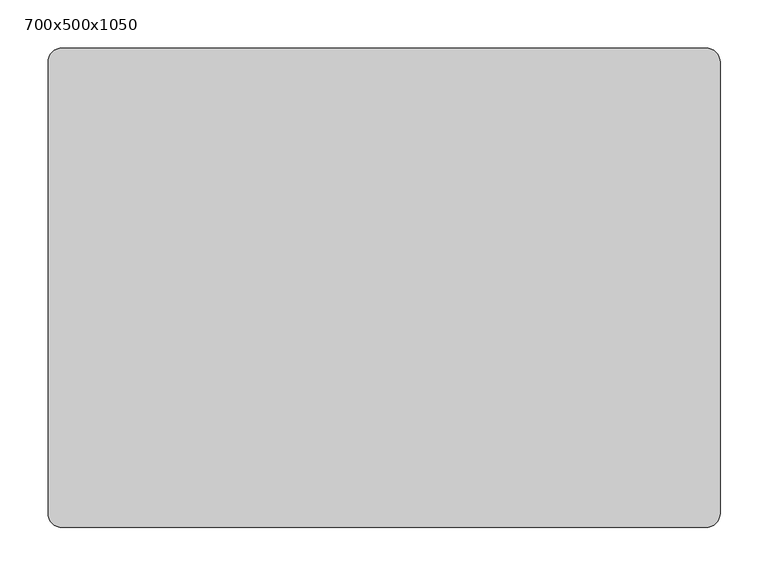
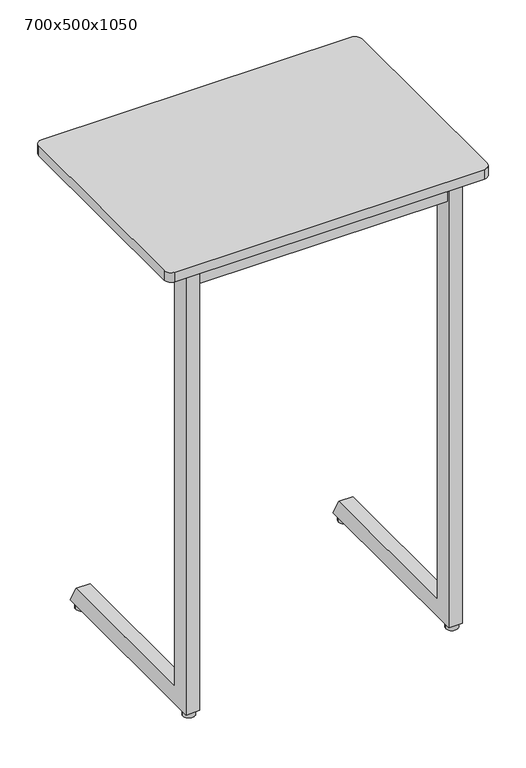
"""IFC4 building model written with IfcOpenShell, lengths in millimetres: furniture geometry, Trivia Light : 700x500x1050."""

from ifc_helpers import new_model, si_unit, point, frame, frame_2d, origin, origin_with_axes, place, context, project, spatial, polyline, circle_curve, trimmed, segment, composite_curve, outline, extrude, source, transform, mapped, element, save


def furniture_700x500x1050_466b920c(model_context):
    return source(origin(), model_context, "Body", "SweptSolid", [
        extrude(outline(polyline([(434.5100173, 1028.0), (419.9996059, 996.4981092), (54.0, 996.4977978), (54.0, 1028.0), (434.5100173, 1028.0)])), frame((-214.7535601, 0.0, 0.0), z_axis=(1.0, 0.0, 0.0), x_axis=(0.0, 1.0, 0.0)), (0.0, 0.0, 1.0), 30.0),
        extrude(outline(polyline([(1023.7997437, -217.7502136), (1000.730957, -217.7502136), (1000.730957, -249.8065042), (1005.0394353, -261.6439509), (1002.2203574, -262.6700113), (997.730957, -250.3354852), (997.730957, -214.7502136), (1023.7997437, -214.7502136), (1023.7997437, -217.7502136)])), frame((0.0, 215.0, 0.0), z_axis=(0.0, 1.0, 0.0), x_axis=(0.0, 0.0, 1.0)), (0.0, 0.0, 1.0), 30.0),
        extrude(outline(polyline([(1023.7997437, 217.7535601), (1023.7997437, 214.7535601), (997.730957, 214.7535601), (997.730957, 250.3388316), (1002.2203574, 262.6733577), (1005.0394353, 261.6472973), (1000.730957, 249.8098507), (1000.730957, 217.7535601), (1023.7997437, 217.7535601)])), frame((0.0, 215.0, 0.0), z_axis=(0.0, 1.0, 0.0), x_axis=(0.0, 0.0, 1.0)), (0.0, 0.0, 1.0), 30.0),
        extrude(outline(composite_curve([segment(trimmed(circle_curve(frame_2d((-285.0, 35.0)), 13.0), [point((-298.0, 35.0))], [point((-272.0, 35.0))], False, "CARTESIAN"), True, "CONTINUOUS"), segment(trimmed(circle_curve(frame_2d((-285.0, 35.0)), 13.0), [point((-272.0, 35.0))], [point((-298.0, 35.0))], False, "CARTESIAN"), True, "CONTINUOUS")], self_intersect=False)), origin_with_axes(), (0.0, 0.0, 1.0), 13.0905762),
        extrude(outline(composite_curve([segment(trimmed(circle_curve(frame_2d((285.0, 35.0)), 13.0), [point((272.0, 35.0))], [point((298.0, 35.0))], False, "CARTESIAN"), True, "CONTINUOUS"), segment(trimmed(circle_curve(frame_2d((285.0, 35.0)), 13.0), [point((298.0, 35.0))], [point((272.0, 35.0))], False, "CARTESIAN"), True, "CONTINUOUS")], self_intersect=False)), origin_with_axes(), (0.0, 0.0, 1.0), 13.0905762),
        extrude(outline(composite_curve([segment(trimmed(circle_curve(frame_2d((285.0, 437.5)), 13.0), [point((272.0, 437.5))], [point((298.0, 437.5))], False, "CARTESIAN"), True, "CONTINUOUS"), segment(trimmed(circle_curve(frame_2d((285.0, 437.5)), 13.0), [point((298.0, 437.5))], [point((272.0, 437.5))], False, "CARTESIAN"), True, "CONTINUOUS")], self_intersect=False)), origin_with_axes(), (0.0, 0.0, 1.0), 13.0905762),
        extrude(outline(composite_curve([segment(trimmed(circle_curve(frame_2d((-285.0, 437.5)), 13.0), [point((-298.0, 437.5))], [point((-272.0, 437.5))], False, "CARTESIAN"), True, "CONTINUOUS"), segment(trimmed(circle_curve(frame_2d((-285.0, 437.5)), 13.0), [point((-272.0, 437.5))], [point((-298.0, 437.5))], False, "CARTESIAN"), True, "CONTINUOUS")], self_intersect=False)), origin_with_axes(), (0.0, 0.0, 1.0), 13.0905762),
        extrude(outline(polyline([(434.5100173, 1028.0), (419.9996059, 996.4981092), (54.0, 996.4977978), (54.0, 1028.0), (434.5100173, 1028.0)])), frame((184.7535601, 0.0, 0.0), z_axis=(1.0, 0.0, 0.0), x_axis=(0.0, 1.0, 0.0)), (0.0, 0.0, 1.0), 30.0),
        extrude(outline(composite_curve([segment(trimmed(circle_curve(frame_2d((335.0, 485.0)), 15.0), [point((335.0, 500.0))], [point((350.0, 485.0))], False, "CARTESIAN"), True, "CONTINUOUS"), segment(polyline([(350.0, 485.0), (350.0, 15.0)]), True, "CONTINUOUS"), segment(trimmed(circle_curve(frame_2d((335.0, 15.0)), 15.0), [point((350.0, 15.0))], [point((335.0, 0.0))], False, "CARTESIAN"), True, "CONTINUOUS"), segment(polyline([(335.0, 0.0), (-335.0, 0.0)]), True, "CONTINUOUS"), segment(trimmed(circle_curve(frame_2d((-335.0, 15.0)), 15.0), [point((-335.0, 0.0))], [point((-350.0, 15.0))], False, "CARTESIAN"), True, "CONTINUOUS"), segment(polyline([(-350.0, 15.0), (-350.0, 485.0)]), True, "CONTINUOUS"), segment(trimmed(circle_curve(frame_2d((-335.0, 485.0)), 15.0), [point((-350.0, 485.0))], [point((-335.0, 500.0))], False, "CARTESIAN"), True, "CONTINUOUS"), segment(polyline([(-335.0, 500.0), (335.0, 500.0)]), True, "CONTINUOUS")], self_intersect=False)), frame((0.0, 0.0, 1028.0), z_axis=(0.0, 0.0, 1.0), x_axis=(1.0, 0.0, 0.0)), (0.0, 0.0, 1.0), 22.0),
        extrude(outline(polyline([(269.7534307, 54.0), (269.7534307, 24.0), (-269.7534307, 24.0), (-269.7534307, 54.0), (269.7534307, 54.0)])), frame((0.0, 0.0, 986.0), z_axis=(0.0, 0.0, 1.0), x_axis=(1.0, 0.0, 0.0)), (0.0, 0.0, 1.0), 42.0),
        extrude(outline(polyline([(62.0, 51.5905762), (432.1448423, 51.5905762), (454.8944033, 11.5905762), (20.0, 11.5905762), (20.0, 1028.0), (62.0, 1028.0), (62.0, 51.5905762)])), frame((-299.7535601, 0.0, 0.0), z_axis=(1.0, 0.0, 0.0), x_axis=(0.0, 1.0, 0.0)), (0.0, 0.0, 1.0), 30.0001294),
        extrude(outline(polyline([(62.0, 51.5905762), (432.1448423, 51.5905762), (454.8944033, 11.5905762), (20.0, 11.5905762), (20.0, 1028.0), (62.0, 1028.0), (62.0, 51.5905762)])), frame((269.7534307, 0.0, 0.0), z_axis=(1.0, 0.0, 0.0), x_axis=(0.0, 1.0, 0.0)), (0.0, 0.0, 1.0), 30.0001294),
    ])


if __name__ == "__main__":
    model = new_model("IFC4")
    model_context = context("Model", 3, world=origin())
    ifc_project = project(units=[si_unit("LENGTHUNIT", "METRE", prefix="MILLI")], contexts=[model_context])
    site = spatial("IfcSite", under=ifc_project)
    building = spatial("IfcBuilding", under=site)
    placement = place(None, origin())
    furniture_700x500x1050_shape = furniture_700x500x1050_466b920c(model_context)
    element("IfcFurniture", 1, ObjectType="Trivia Light : 700x500x1050", at=placement, inside=building, context=model_context, shape_type="MappedRepresentation", body=[
        mapped(furniture_700x500x1050_shape, transform((0.0, 0.0, 0.0), x_axis=(1.0, 0.0, 0.0), y_axis=(0.0, 1.0, 0.0), z_axis=(0.0, 0.0, 1.0))),
    ])
    save(model, "model.ifc")
